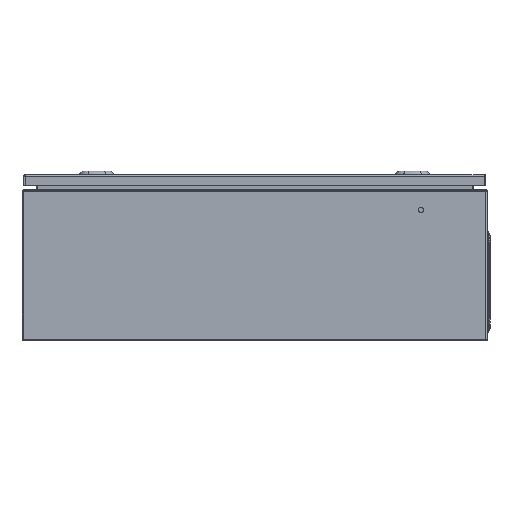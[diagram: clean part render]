
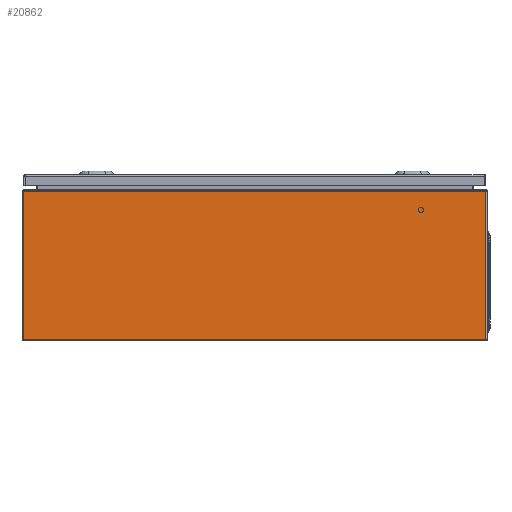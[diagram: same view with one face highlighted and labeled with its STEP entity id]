
A CAD part, left-side view. The second image highlights one B-rep face of the part: STEP entity #20862.
In plain terms, the highlighted planar face has unit normal (-1, 0, 0).
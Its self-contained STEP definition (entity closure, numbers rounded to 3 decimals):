
#170 = EDGE_CURVE ( 'NONE', #18765, #1182, #3087, .T. ) ;
#780 = DIRECTION ( 'NONE',  ( 0., -1., 0. ) ) ;
#879 = ORIENTED_EDGE ( 'NONE', *, *, #17831, .T. ) ;
#1182 = VERTEX_POINT ( 'NONE', #19419 ) ;
#1696 = VERTEX_POINT ( 'NONE', #17314 ) ;
#2826 = CARTESIAN_POINT ( 'NONE',  ( -250., -347.5, 1.5 ) ) ;
#2870 = LINE ( 'NONE', #4572, #18593 ) ;
#3087 = LINE ( 'NONE', #2826, #13443 ) ;
#3237 = EDGE_CURVE ( 'NONE', #3977, #18765, #2870, .T. ) ;
#3526 = ORIENTED_EDGE ( 'NONE', *, *, #170, .T. ) ;
#3977 = VERTEX_POINT ( 'NONE', #18095 ) ;
#4175 = VECTOR ( 'NONE', #19187, 1000. ) ;
#4572 = CARTESIAN_POINT ( 'NONE',  ( -250., -350., 2.35 ) ) ;
#5542 = EDGE_CURVE ( 'NONE', #1696, #1182, #14754, .T. ) ;
#6122 = ORIENTED_EDGE ( 'NONE', *, *, #5542, .F. ) ;
#6877 = DIRECTION ( 'NONE',  ( 1., 0., 0. ) ) ;
#7537 = DIRECTION ( 'NONE',  ( 0., 0., -1. ) ) ;
#8830 = FACE_OUTER_BOUND ( 'NONE', #24495, .T. ) ;
#13443 = VECTOR ( 'NONE', #24791, 1000. ) ;
#13599 = LINE ( 'NONE', #25562, #14336 ) ;
#14336 = VECTOR ( 'NONE', #21527, 1000. ) ;
#14754 = LINE ( 'NONE', #22948, #4175 ) ;
#16760 = PLANE ( 'NONE',  #23632 ) ;
#17314 = CARTESIAN_POINT ( 'NONE',  ( -250., 347.5, 224.5 ) ) ;
#17831 = EDGE_CURVE ( 'NONE', #1696, #3977, #13599, .T. ) ;
#18095 = CARTESIAN_POINT ( 'NONE',  ( -250., 347.5, 2.35 ) ) ;
#18593 = VECTOR ( 'NONE', #780, 1000. ) ;
#18765 = VERTEX_POINT ( 'NONE', #20892 ) ;
#19187 = DIRECTION ( 'NONE',  ( 0., -1., 0. ) ) ;
#19419 = CARTESIAN_POINT ( 'NONE',  ( -250., -347.5, 224.5 ) ) ;
#20862 = ADVANCED_FACE ( 'NONE', ( #8830 ), #16760, .F. ) ;
#20892 = CARTESIAN_POINT ( 'NONE',  ( -250., -347.5, 2.35 ) ) ;
#21527 = DIRECTION ( 'NONE',  ( 0., 0., -1. ) ) ;
#22117 = ORIENTED_EDGE ( 'NONE', *, *, #3237, .T. ) ;
#22948 = CARTESIAN_POINT ( 'NONE',  ( -250., 350., 224.5 ) ) ;
#23632 = AXIS2_PLACEMENT_3D ( 'NONE', #24693, #6877, #7537 ) ;
#24495 = EDGE_LOOP ( 'NONE', ( #879, #22117, #3526, #6122 ) ) ;
#24693 = CARTESIAN_POINT ( 'NONE',  ( -250., -350., 1.5 ) ) ;
#24791 = DIRECTION ( 'NONE',  ( 0., 0., 1. ) ) ;
#25562 = CARTESIAN_POINT ( 'NONE',  ( -250., 347.5, 1.5 ) ) ;
